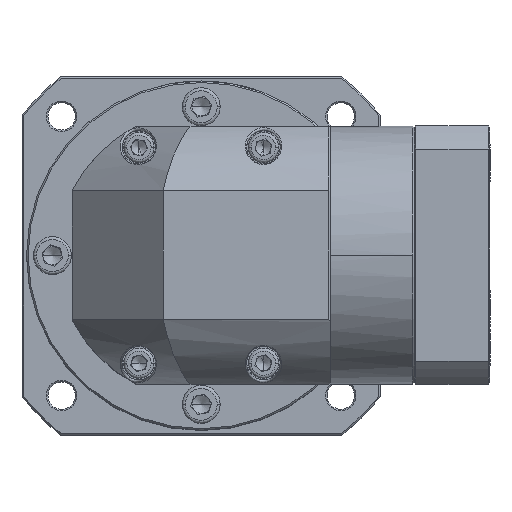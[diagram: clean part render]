
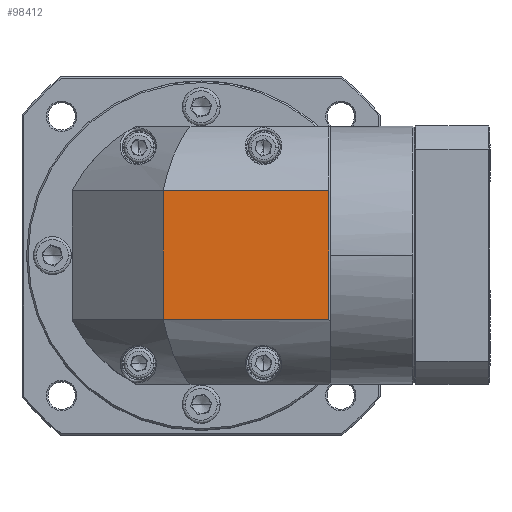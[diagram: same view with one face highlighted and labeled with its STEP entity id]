
A CAD part, top view. The second image highlights one B-rep face of the part: STEP entity #98412.
In plain terms, the highlighted planar face has unit normal (0, 0, 1).
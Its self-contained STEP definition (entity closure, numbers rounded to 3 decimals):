
#3238 = LINE ( 'NONE', #32904, #84224 ) ;
#3593 = EDGE_CURVE ( 'NONE', #93961, #42831, #54009, .T. ) ;
#7463 = VECTOR ( 'NONE', #81820, 1000. ) ;
#10166 = DIRECTION ( 'NONE',  ( 0., 0., 1. ) ) ;
#13332 = LINE ( 'NONE', #98704, #56886 ) ;
#18634 = ORIENTED_EDGE ( 'NONE', *, *, #27205, .F. ) ;
#24221 = DIRECTION ( 'NONE',  ( 0., 1., 0. ) ) ;
#27205 = EDGE_CURVE ( 'NONE', #74603, #123408, #3238, .T. ) ;
#30202 = DIRECTION ( 'NONE',  ( 1., 0., 0. ) ) ;
#32904 = CARTESIAN_POINT ( 'NONE',  ( -22.163, 84.263, -16.295 ) ) ;
#33279 = ORIENTED_EDGE ( 'NONE', *, *, #3593, .F. ) ;
#38614 = CARTESIAN_POINT ( 'NONE',  ( 35.837, 105.476, -16.295 ) ) ;
#40791 = VECTOR ( 'NONE', #71354, 1000. ) ;
#42070 = CARTESIAN_POINT ( 'NONE',  ( 23.337, 105.476, -16.295 ) ) ;
#42831 = VERTEX_POINT ( 'NONE', #77339 ) ;
#44309 = EDGE_LOOP ( 'NONE', ( #33279, #120069, #18634, #47209 ) ) ;
#44736 = FACE_OUTER_BOUND ( 'NONE', #44309, .T. ) ;
#45347 = LINE ( 'NONE', #42070, #40791 ) ;
#47209 = ORIENTED_EDGE ( 'NONE', *, *, #90472, .T. ) ;
#54009 = LINE ( 'NONE', #80974, #7463 ) ;
#56886 = VECTOR ( 'NONE', #24221, 1000. ) ;
#58339 = PLANE ( 'NONE',  #72103 ) ;
#62828 = CARTESIAN_POINT ( 'NONE',  ( 23.337, 84.263, -16.295 ) ) ;
#71354 = DIRECTION ( 'NONE',  ( 0., 1., 0. ) ) ;
#72103 = AXIS2_PLACEMENT_3D ( 'NONE', #38614, #10166, #30202 ) ;
#74603 = VERTEX_POINT ( 'NONE', #83525 ) ;
#77339 = CARTESIAN_POINT ( 'NONE',  ( 77.837, 126.69, -16.295 ) ) ;
#80974 = CARTESIAN_POINT ( 'NONE',  ( -22.163, 126.69, -16.295 ) ) ;
#81820 = DIRECTION ( 'NONE',  ( 1., 0., 0. ) ) ;
#83525 = CARTESIAN_POINT ( 'NONE',  ( 77.837, 84.263, -16.295 ) ) ;
#84224 = VECTOR ( 'NONE', #98654, 1000. ) ;
#89574 = EDGE_CURVE ( 'NONE', #123408, #93961, #45347, .T. ) ;
#90472 = EDGE_CURVE ( 'NONE', #74603, #42831, #13332, .T. ) ;
#93961 = VERTEX_POINT ( 'NONE', #94760 ) ;
#94760 = CARTESIAN_POINT ( 'NONE',  ( 23.337, 126.69, -16.295 ) ) ;
#98412 = ADVANCED_FACE ( 'NONE', ( #44736 ), #58339, .T. ) ;
#98654 = DIRECTION ( 'NONE',  ( -1., 0., 0. ) ) ;
#98704 = CARTESIAN_POINT ( 'NONE',  ( 77.837, 105.476, -16.295 ) ) ;
#120069 = ORIENTED_EDGE ( 'NONE', *, *, #89574, .F. ) ;
#123408 = VERTEX_POINT ( 'NONE', #62828 ) ;
